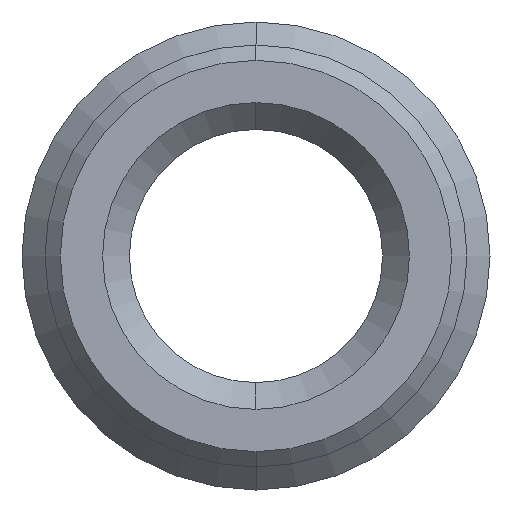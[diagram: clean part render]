
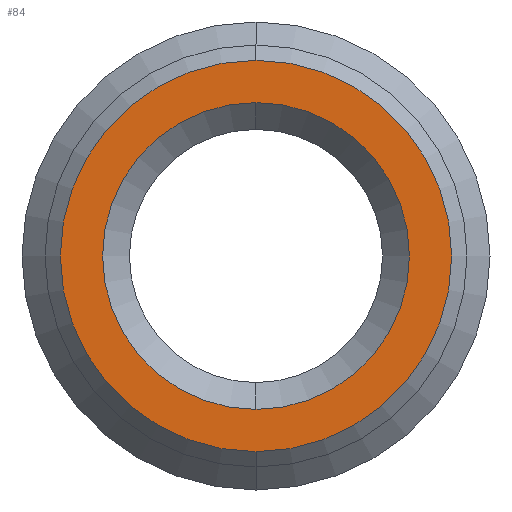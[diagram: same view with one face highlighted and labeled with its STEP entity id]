
A CAD part, left-side view. The second image highlights one B-rep face of the part: STEP entity #84.
In plain terms, the highlighted planar face has unit normal (-1, 0, 0).
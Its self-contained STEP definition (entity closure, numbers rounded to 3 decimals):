
#11 = EDGE_CURVE ( 'NONE', #380, #498, #1267, .T. ) ;
#61 = EDGE_LOOP ( 'NONE', ( #487, #1145 ) ) ;
#65 = DIRECTION ( 'NONE',  ( 1., 0., 0. ) ) ;
#74 = VERTEX_POINT ( 'NONE', #925 ) ;
#84 = ADVANCED_FACE ( 'NONE', ( #834, #1232 ), #344, .F. ) ;
#85 = CARTESIAN_POINT ( 'NONE',  ( -4.05, 0., 0. ) ) ;
#123 = DIRECTION ( 'NONE',  ( 1., 0., 0. ) ) ;
#185 = AXIS2_PLACEMENT_3D ( 'NONE', #85, #657, #467 ) ;
#227 = CARTESIAN_POINT ( 'NONE',  ( -4.05, 0., -2.55 ) ) ;
#248 = DIRECTION ( 'NONE',  ( 0., 0., 1. ) ) ;
#262 = DIRECTION ( 'NONE',  ( 0., 0., 1. ) ) ;
#267 = EDGE_CURVE ( 'NONE', #498, #380, #503, .T. ) ;
#344 = PLANE ( 'NONE',  #671 ) ;
#380 = VERTEX_POINT ( 'NONE', #227 ) ;
#411 = ORIENTED_EDGE ( 'NONE', *, *, #267, .F. ) ;
#422 = ORIENTED_EDGE ( 'NONE', *, *, #11, .F. ) ;
#457 = DIRECTION ( 'NONE',  ( 0., 0., -1. ) ) ;
#467 = DIRECTION ( 'NONE',  ( 0., 0., -1. ) ) ;
#487 = ORIENTED_EDGE ( 'NONE', *, *, #1148, .T. ) ;
#498 = VERTEX_POINT ( 'NONE', #1111 ) ;
#503 = CIRCLE ( 'NONE', #946, 2.55 ) ;
#554 = CARTESIAN_POINT ( 'NONE',  ( -4.05, 0., 0. ) ) ;
#597 = EDGE_LOOP ( 'NONE', ( #411, #422 ) ) ;
#635 = CARTESIAN_POINT ( 'NONE',  ( -4.05, 0., 0. ) ) ;
#636 = AXIS2_PLACEMENT_3D ( 'NONE', #1147, #939, #262 ) ;
#657 = DIRECTION ( 'NONE',  ( 1., 0., 0. ) ) ;
#671 = AXIS2_PLACEMENT_3D ( 'NONE', #736, #1139, #248 ) ;
#736 = CARTESIAN_POINT ( 'NONE',  ( -4.05, 2.75, 0. ) ) ;
#741 = AXIS2_PLACEMENT_3D ( 'NONE', #554, #65, #457 ) ;
#828 = VERTEX_POINT ( 'NONE', #1074 ) ;
#832 = DIRECTION ( 'NONE',  ( 0., 0., 1. ) ) ;
#834 = FACE_BOUND ( 'NONE', #61, .T. ) ;
#925 = CARTESIAN_POINT ( 'NONE',  ( -4.05, 0., 2. ) ) ;
#939 = DIRECTION ( 'NONE',  ( 1., 0., 0. ) ) ;
#946 = AXIS2_PLACEMENT_3D ( 'NONE', #635, #123, #832 ) ;
#1074 = CARTESIAN_POINT ( 'NONE',  ( -4.05, 0., -2. ) ) ;
#1080 = EDGE_CURVE ( 'NONE', #828, #74, #1115, .T. ) ;
#1111 = CARTESIAN_POINT ( 'NONE',  ( -4.05, 0., 2.55 ) ) ;
#1115 = CIRCLE ( 'NONE', #185, 2. ) ;
#1139 = DIRECTION ( 'NONE',  ( 1., 0., 0. ) ) ;
#1145 = ORIENTED_EDGE ( 'NONE', *, *, #1080, .T. ) ;
#1147 = CARTESIAN_POINT ( 'NONE',  ( -4.05, 0., 0. ) ) ;
#1148 = EDGE_CURVE ( 'NONE', #74, #828, #1283, .T. ) ;
#1232 = FACE_OUTER_BOUND ( 'NONE', #597, .T. ) ;
#1267 = CIRCLE ( 'NONE', #636, 2.55 ) ;
#1283 = CIRCLE ( 'NONE', #741, 2. ) ;
